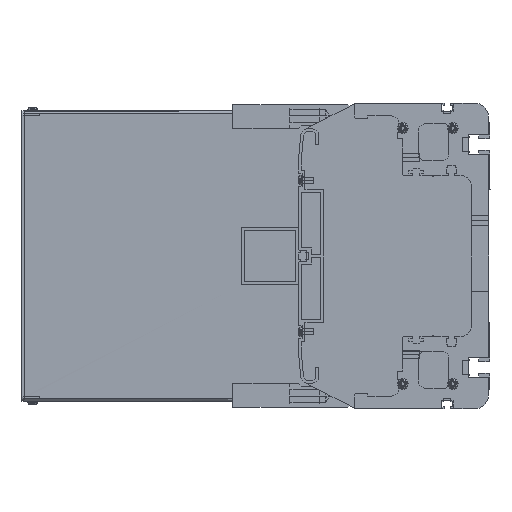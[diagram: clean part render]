
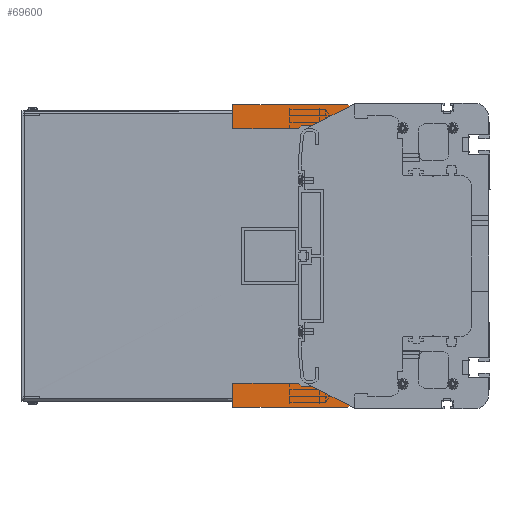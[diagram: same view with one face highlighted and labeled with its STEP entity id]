
A CAD part, left-side view. The second image highlights one B-rep face of the part: STEP entity #69600.
In plain terms, the highlighted planar face has unit normal (-1, 0, 0).
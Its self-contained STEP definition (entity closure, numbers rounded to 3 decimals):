
#65124=DIRECTION('',(0.,0.,1.));
#65125=VECTOR('',#65124,134.);
#65126=CARTESIAN_POINT('',(-434.5,111.,-67.));
#65127=LINE('',#65126,#65125);
#65389=DIRECTION('',(0.,1.,0.));
#65390=VECTOR('',#65389,46.);
#65391=CARTESIAN_POINT('',(-434.5,134.,-89.));
#65392=LINE('',#65391,#65390);
#65614=DIRECTION('',(0.,0.,1.));
#65615=VECTOR('',#65614,13.);
#65616=CARTESIAN_POINT('',(-434.5,114.5,-86.));
#65617=LINE('',#65616,#65615);
#65750=DIRECTION('',(0.,1.,0.));
#65751=VECTOR('',#65750,79.);
#65752=CARTESIAN_POINT('',(-434.5,101.,-106.));
#65753=LINE('',#65752,#65751);
#65754=DIRECTION('',(0.,-0.707,-0.707));
#65755=VECTOR('',#65754,2.828);
#65756=CARTESIAN_POINT('',(-434.5,134.,-89.));
#65757=LINE('',#65756,#65755);
#65758=CARTESIAN_POINT('',(-434.5,119.5,-86.));
#65759=DIRECTION('',(-1.,0.,0.));
#65760=DIRECTION('',(0.,0.,-1.));
#65761=AXIS2_PLACEMENT_3D('',#65758,#65759,#65760);
#65763=CARTESIAN_POINT('',(-434.5,119.5,86.));
#65764=DIRECTION('',(-1.,0.,0.));
#65765=DIRECTION('',(0.,-1.,0.));
#65766=AXIS2_PLACEMENT_3D('',#65763,#65764,#65765);
#65768=DIRECTION('',(0.,0.707,-0.707));
#65769=VECTOR('',#65768,2.828);
#65770=CARTESIAN_POINT('',(-434.5,132.,91.));
#65771=LINE('',#65770,#65769);
#65772=DIRECTION('',(0.,0.,-1.));
#65773=VECTOR('',#65772,17.);
#65774=CARTESIAN_POINT('',(-434.5,180.,106.));
#65775=LINE('',#65774,#65773);
#65776=DIRECTION('',(0.,-1.,0.));
#65777=VECTOR('',#65776,79.);
#65778=CARTESIAN_POINT('',(-434.5,180.,106.));
#65779=LINE('',#65778,#65777);
#65780=CARTESIAN_POINT('',(-434.5,101.,102.));
#65781=DIRECTION('',(1.,0.,0.));
#65782=DIRECTION('',(0.,0.,1.));
#65783=AXIS2_PLACEMENT_3D('',#65780,#65781,#65782);
#65785=CARTESIAN_POINT('',(-434.5,101.,-102.));
#65786=DIRECTION('',(1.,0.,0.));
#65787=DIRECTION('',(0.,-1.,0.));
#65788=AXIS2_PLACEMENT_3D('',#65785,#65786,#65787);
#65850=DIRECTION('',(0.,0.,1.));
#65851=VECTOR('',#65850,17.);
#65852=CARTESIAN_POINT('',(-434.5,180.,-106.));
#65853=LINE('',#65852,#65851);
#66046=DIRECTION('',(0.,0.,-1.));
#66047=VECTOR('',#66046,204.);
#66048=CARTESIAN_POINT('',(-434.5,97.,102.));
#66049=LINE('',#66048,#66047);
#66425=DIRECTION('',(0.,-1.,0.));
#66426=VECTOR('',#66425,46.);
#66427=CARTESIAN_POINT('',(-434.5,180.,89.));
#66428=LINE('',#66427,#66426);
#66476=DIRECTION('',(0.,1.,0.));
#66477=VECTOR('',#66476,12.5);
#66478=CARTESIAN_POINT('',(-434.5,119.5,91.));
#66479=LINE('',#66478,#66477);
#66546=DIRECTION('',(0.,0.,1.));
#66547=VECTOR('',#66546,13.);
#66548=CARTESIAN_POINT('',(-434.5,114.5,73.));
#66549=LINE('',#66548,#66547);
#66862=DIRECTION('',(0.,1.,0.));
#66863=VECTOR('',#66862,6.5);
#66864=CARTESIAN_POINT('',(-434.5,108.,73.));
#66865=LINE('',#66864,#66863);
#66870=DIRECTION('',(0.,0.,1.));
#66871=VECTOR('',#66870,6.);
#66872=CARTESIAN_POINT('',(-434.5,108.,67.));
#66873=LINE('',#66872,#66871);
#66878=DIRECTION('',(0.,-1.,0.));
#66879=VECTOR('',#66878,3.);
#66880=CARTESIAN_POINT('',(-434.5,111.,67.));
#66881=LINE('',#66880,#66879);
#67733=DIRECTION('',(0.,-1.,0.));
#67734=VECTOR('',#67733,12.5);
#67735=CARTESIAN_POINT('',(-434.5,132.,-91.));
#67736=LINE('',#67735,#67734);
#67737=DIRECTION('',(0.,-1.,0.));
#67738=VECTOR('',#67737,6.5);
#67739=CARTESIAN_POINT('',(-434.5,114.5,-73.));
#67740=LINE('',#67739,#67738);
#67749=DIRECTION('',(0.,0.,1.));
#67750=VECTOR('',#67749,6.);
#67751=CARTESIAN_POINT('',(-434.5,108.,-73.));
#67752=LINE('',#67751,#67750);
#67761=DIRECTION('',(0.,1.,0.));
#67762=VECTOR('',#67761,3.);
#67763=CARTESIAN_POINT('',(-434.5,108.,-67.));
#67764=LINE('',#67763,#67762);
#68049=CARTESIAN_POINT('',(-434.5,180.,106.));
#68051=VERTEX_POINT('',#68049);
#68055=CARTESIAN_POINT('',(-434.5,180.,89.));
#68056=VERTEX_POINT('',#68055);
#68070=CARTESIAN_POINT('',(-434.5,180.,-106.));
#68072=VERTEX_POINT('',#68070);
#68073=CARTESIAN_POINT('',(-434.5,180.,-89.));
#68074=VERTEX_POINT('',#68073);
#68089=CARTESIAN_POINT('',(-434.5,97.,102.));
#68090=CARTESIAN_POINT('',(-434.5,97.,-102.));
#68091=VERTEX_POINT('',#68089);
#68092=VERTEX_POINT('',#68090);
#68093=CARTESIAN_POINT('',(-434.5,101.,106.));
#68094=VERTEX_POINT('',#68093);
#68095=CARTESIAN_POINT('',(-434.5,132.,91.));
#68096=CARTESIAN_POINT('',(-434.5,134.,89.));
#68097=VERTEX_POINT('',#68095);
#68098=VERTEX_POINT('',#68096);
#68099=CARTESIAN_POINT('',(-434.5,119.5,91.));
#68100=VERTEX_POINT('',#68099);
#68101=CARTESIAN_POINT('',(-434.5,114.5,86.));
#68102=VERTEX_POINT('',#68101);
#68103=CARTESIAN_POINT('',(-434.5,114.5,73.));
#68104=VERTEX_POINT('',#68103);
#68105=CARTESIAN_POINT('',(-434.5,108.,73.));
#68106=VERTEX_POINT('',#68105);
#68107=CARTESIAN_POINT('',(-434.5,108.,67.));
#68108=VERTEX_POINT('',#68107);
#68109=CARTESIAN_POINT('',(-434.5,111.,67.));
#68110=VERTEX_POINT('',#68109);
#68111=CARTESIAN_POINT('',(-434.5,111.,-67.));
#68112=VERTEX_POINT('',#68111);
#68113=CARTESIAN_POINT('',(-434.5,108.,-67.));
#68114=VERTEX_POINT('',#68113);
#68115=CARTESIAN_POINT('',(-434.5,108.,-73.));
#68116=VERTEX_POINT('',#68115);
#68117=CARTESIAN_POINT('',(-434.5,114.5,-73.));
#68118=VERTEX_POINT('',#68117);
#68119=CARTESIAN_POINT('',(-434.5,114.5,-86.));
#68120=VERTEX_POINT('',#68119);
#68121=CARTESIAN_POINT('',(-434.5,119.5,-91.));
#68122=VERTEX_POINT('',#68121);
#68123=CARTESIAN_POINT('',(-434.5,132.,-91.));
#68124=VERTEX_POINT('',#68123);
#68125=CARTESIAN_POINT('',(-434.5,134.,-89.));
#68126=VERTEX_POINT('',#68125);
#68127=CARTESIAN_POINT('',(-434.5,101.,-106.));
#68128=VERTEX_POINT('',#68127);
#69549=CARTESIAN_POINT('',(-434.5,118.5,0.));
#69550=DIRECTION('',(1.,0.,0.));
#69551=DIRECTION('',(0.,0.,-1.));
#69552=AXIS2_PLACEMENT_3D('',#69549,#69550,#69551);
#69553=PLANE('',#69552);
#69555=ORIENTED_EDGE('',*,*,#69554,.T.);
#69557=ORIENTED_EDGE('',*,*,#69556,.T.);
#69558=ORIENTED_EDGE('',*,*,#69155,.F.);
#69560=ORIENTED_EDGE('',*,*,#69559,.T.);
#69562=ORIENTED_EDGE('',*,*,#69561,.T.);
#69563=ORIENTED_EDGE('',*,*,#69540,.T.);
#69564=ORIENTED_EDGE('',*,*,#69438,.T.);
#69566=ORIENTED_EDGE('',*,*,#69565,.T.);
#69568=ORIENTED_EDGE('',*,*,#69567,.T.);
#69570=ORIENTED_EDGE('',*,*,#69569,.T.);
#69571=ORIENTED_EDGE('',*,*,#68927,.T.);
#69573=ORIENTED_EDGE('',*,*,#69572,.T.);
#69575=ORIENTED_EDGE('',*,*,#69574,.T.);
#69577=ORIENTED_EDGE('',*,*,#69576,.T.);
#69579=ORIENTED_EDGE('',*,*,#69578,.T.);
#69581=ORIENTED_EDGE('',*,*,#69580,.T.);
#69583=ORIENTED_EDGE('',*,*,#69582,.T.);
#69585=ORIENTED_EDGE('',*,*,#69584,.T.);
#69587=ORIENTED_EDGE('',*,*,#69586,.F.);
#69589=ORIENTED_EDGE('',*,*,#69588,.F.);
#69591=ORIENTED_EDGE('',*,*,#69590,.T.);
#69593=ORIENTED_EDGE('',*,*,#69592,.T.);
#69595=ORIENTED_EDGE('',*,*,#69594,.T.);
#69597=ORIENTED_EDGE('',*,*,#69596,.T.);
#69598=EDGE_LOOP('',(#69555,#69557,#69558,#69560,#69562,#69563,#69564,#69566,
#69568,#69570,#69571,#69573,#69575,#69577,#69579,#69581,#69583,#69585,#69587,
#69589,#69591,#69593,#69595,#69597));
#69599=FACE_OUTER_BOUND('',#69598,.F.);
#69600=ADVANCED_FACE('',(#69599),#69553,.F.);
#65762=CIRCLE('',#65761,5.);
#65767=CIRCLE('',#65766,5.);
#65784=CIRCLE('',#65783,4.);
#65789=CIRCLE('',#65788,4.);
#68927=EDGE_CURVE('',#68112,#68110,#65127,.T.);
#69155=EDGE_CURVE('',#68126,#68074,#65392,.T.);
#69438=EDGE_CURVE('',#68120,#68118,#65617,.T.);
#69540=EDGE_CURVE('',#68122,#68120,#65762,.T.);
#69554=EDGE_CURVE('',#68128,#68072,#65753,.T.);
#69556=EDGE_CURVE('',#68072,#68074,#65853,.T.);
#69559=EDGE_CURVE('',#68126,#68124,#65757,.T.);
#69561=EDGE_CURVE('',#68124,#68122,#67736,.T.);
#69565=EDGE_CURVE('',#68118,#68116,#67740,.T.);
#69567=EDGE_CURVE('',#68116,#68114,#67752,.T.);
#69569=EDGE_CURVE('',#68114,#68112,#67764,.T.);
#69572=EDGE_CURVE('',#68110,#68108,#66881,.T.);
#69574=EDGE_CURVE('',#68108,#68106,#66873,.T.);
#69576=EDGE_CURVE('',#68106,#68104,#66865,.T.);
#69578=EDGE_CURVE('',#68104,#68102,#66549,.T.);
#69580=EDGE_CURVE('',#68102,#68100,#65767,.T.);
#69582=EDGE_CURVE('',#68100,#68097,#66479,.T.);
#69584=EDGE_CURVE('',#68097,#68098,#65771,.T.);
#69586=EDGE_CURVE('',#68056,#68098,#66428,.T.);
#69588=EDGE_CURVE('',#68051,#68056,#65775,.T.);
#69590=EDGE_CURVE('',#68051,#68094,#65779,.T.);
#69592=EDGE_CURVE('',#68094,#68091,#65784,.T.);
#69594=EDGE_CURVE('',#68091,#68092,#66049,.T.);
#69596=EDGE_CURVE('',#68092,#68128,#65789,.T.);
